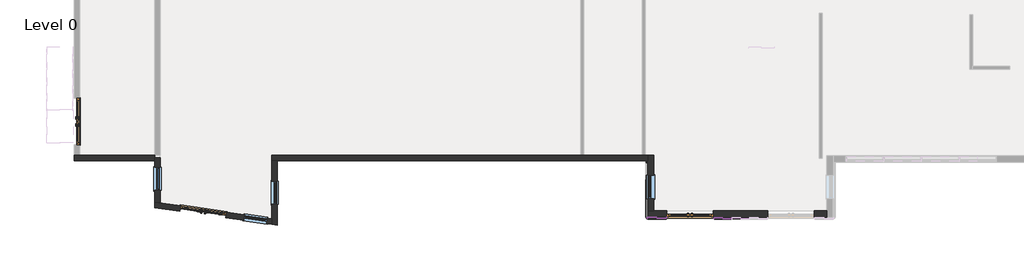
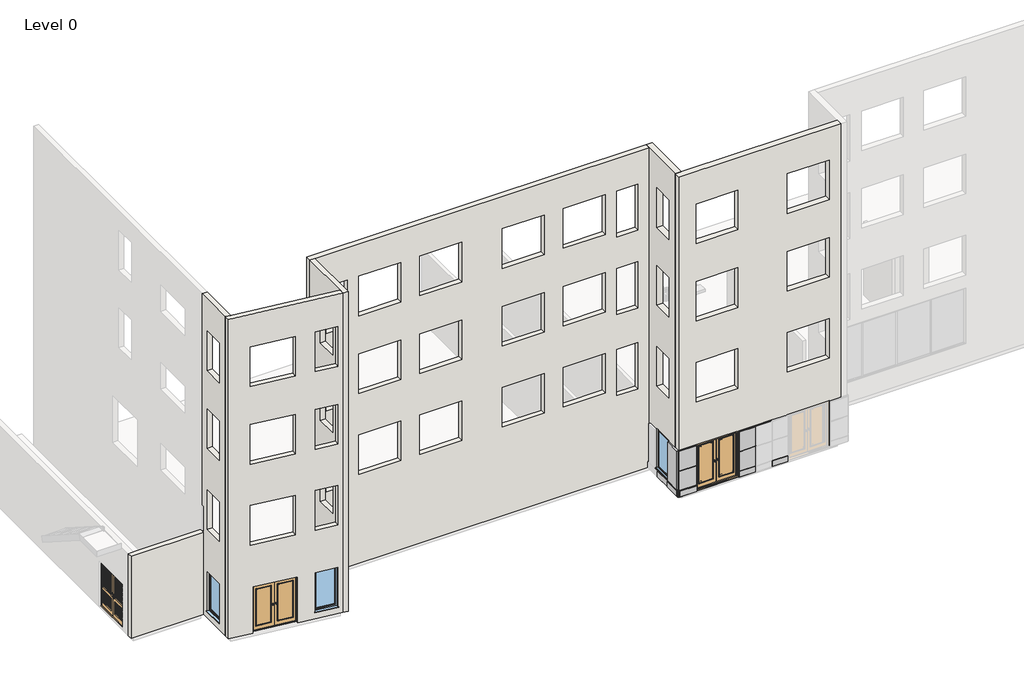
# One storey, part 1 of 10: 33 members, 10 plates, 7 walls, 4 windows, 3 doors.
"""IFC4 building model written with IfcOpenShell, lengths in millimetres."""

from ifc_helpers import new_model, si_unit, origin, place, context, project, spatial, faceted_brep, transform, mapped, element, save
from components import doors_extdbl_1_1810x2110mm_0b28ebda, doors_extdbl_3_1810x2110mm_e0e04a4e, doors_extdbl_louvre_w_transome_1810x2110mm_eca85ab6, rectangular_mullion_25x25mm_80950dc6, rectangular_mullion_25x25mm_dd205cdc, rectangular_mullion_25x25mm_8fab3f60, rectangular_mullion_25x25mm_b69b14d1, rectangular_mullion_25x25mm_7ee1a1d8, rectangular_mullion_25x25mm_003a9669, rectangular_mullion_25x25mm_920d8240, rectangular_mullion_25x25mm_9866c8c1, rectangular_mullion_25x25mm_d62621e3, rectangular_mullion_25x25mm_6d395d07, rectangular_mullion_25x25mm_ba48c8dc, rectangular_mullion_25x25mm_5747d3e9, rectangular_mullion_25x25mm_b4b9a9ee, rectangular_mullion_25x25mm_675738ca, rectangular_mullion_25x25mm_1daffa3c, rectangular_mullion_25x25mm_6c57a8fc, rectangular_mullion_25x25mm_2d4ba261, curtain_panels_solid_solid_panel_green_16f00973, curtain_panels_solid_solid_panel_green_5615a796, curtain_panels_solid_solid_panel_green_d2b71c95, curtain_panels_solid_solid_panel_green_3b4ed4f9, curtain_panels_solid_solid_panel_green_873f3444, curtain_panels_solid_solid_panel_green_c27fb083, windows_sgl_plain_910x1810mm_bd75558e, windows_sgl_plain_910x1810mm_de3ea6c8, windows_sgl_plain_910x1810mm_c05862ca

model = new_model("IFC4")

# Units and contexts
model_context = context("Model", 3, world=origin())
ifc_project = project(units=[si_unit("LENGTHUNIT", "METRE", prefix="MILLI")], contexts=[model_context])

# Site, building, storey
site = spatial("IfcSite", under=ifc_project)
building = spatial("IfcBuilding", under=site)
storey = spatial("IfcBuildingStorey", under=building, Name="Level 0", Elevation=0.0)

# Doors
placement = place(None, origin())
doors_extdbl_1_1810x2110mm_shape = doors_extdbl_1_1810x2110mm_0b28ebda(model_context)
element("IfcDoor", 1, ObjectType="Doors_ExtDbl_1 : 1810x2110mm", at=placement, inside=storey, context=model_context, shape_type="MappedRepresentation", body=[
    mapped(doors_extdbl_1_1810x2110mm_shape, transform((252.2271273, -5475.2464396, 0.0), x_axis=(-0.9902680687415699, 0.13917310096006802, 0.0), y_axis=(-0.13917310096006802, -0.9902680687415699, 0.0), z_axis=(0.0, 0.0, 1.0))),
])
doors_extdbl_3_1810x2110mm_shape = doors_extdbl_3_1810x2110mm_e0e04a4e(model_context)
element("IfcDoor", 2, ObjectType="Doors_ExtDbl_3 : 1810x2110mm", at=placement, inside=storey, context=model_context, shape_type="MappedRepresentation", body=[
    mapped(doors_extdbl_3_1810x2110mm_shape, transform((19253.2942367, -5567.5053409, 0.0), x_axis=(-1.0, 0.0, 0.0), y_axis=(0.0, -1.0, 0.0), z_axis=(0.0, 0.0, 1.0))),
])
doors_extdbl_louvre_w_transome_1810x2110mm_shape = doors_extdbl_louvre_w_transome_1810x2110mm_eca85ab6(model_context)
element("IfcDoor", 3, ObjectType="Doors_ExtDbl_Louvre_w-Transome : 1810x2110mm", at=placement, inside=storey, context=model_context, shape_type="MappedRepresentation", body=[
    mapped(doors_extdbl_louvre_w_transome_1810x2110mm_shape, transform((-4676.7057633, -1955.0053409, 0.0), x_axis=(0.0, -1.0, 0.0), y_axis=(1.0, 0.0, 0.0), z_axis=(0.0, 0.0, 1.0))),
])

# Members
rectangular_mullion_25x25mm_shape = rectangular_mullion_25x25mm_80950dc6(model_context)
element("IfcMember", 4, ObjectType="Rectangular Mullion : 25x25mm", at=placement, inside=storey, context=model_context, shape_type="MappedRepresentation", body=[
    mapped(rectangular_mullion_25x25mm_shape, transform((20882.4609034, -5717.5053409, 25.0), x_axis=(-1.0, 0.0, 0.0), y_axis=(0.0, 1.0, 0.0), z_axis=(0.0, 0.0, -1.0))),
])
rectangular_mullion_25x25mm_2_shape = rectangular_mullion_25x25mm_dd205cdc(model_context)
element("IfcMember", 5, ObjectType="Rectangular Mullion : 25x25mm", at=placement, inside=storey, context=model_context, shape_type="MappedRepresentation", body=[
    mapped(rectangular_mullion_25x25mm_2_shape, transform((20173.2942367, -5717.5053409, 25.0), x_axis=(-1.0, 0.0, 0.0), y_axis=(0.0, 1.0, 0.0), z_axis=(0.0, 0.0, -1.0))),
])
rectangular_mullion_25x25mm_3_shape = rectangular_mullion_25x25mm_8fab3f60(model_context)
element("IfcMember", 6, ObjectType="Rectangular Mullion : 25x25mm", at=placement, inside=storey, context=model_context, shape_type="MappedRepresentation", body=[
    mapped(rectangular_mullion_25x25mm_3_shape, transform((17573.2942367, -4210.005341, 25.0), x_axis=(0.0, -1.0, 0.0), y_axis=(-1.0, 0.0, 0.0), z_axis=(0.0, 0.0, -1.0))),
])
element("IfcMember", 7, ObjectType="Rectangular Mullion : 25x25mm", at=placement, inside=storey, context=model_context, shape_type="MappedRepresentation", body=[
    mapped(rectangular_mullion_25x25mm_3_shape, transform((17573.2942367, -4957.5053408, 25.0), x_axis=(0.0, -1.0, 0.0), y_axis=(-1.0, 0.0, 0.0), z_axis=(0.0, 0.0, -1.0))),
])
rectangular_mullion_25x25mm_4_shape = rectangular_mullion_25x25mm_b69b14d1(model_context)
element("IfcMember", 8, ObjectType="Rectangular Mullion : 25x25mm", at=placement, inside=storey, context=model_context, shape_type="MappedRepresentation", body=[
    mapped(rectangular_mullion_25x25mm_4_shape, transform((17573.2942367, -5717.5053409, 25.0), x_axis=(0.0, -1.0, 0.0), y_axis=(-1.0, 0.0, 0.0), z_axis=(0.0, 0.0, -1.0))),
])
rectangular_mullion_25x25mm_5_shape = rectangular_mullion_25x25mm_7ee1a1d8(model_context)
element("IfcMember", 9, ObjectType="Rectangular Mullion : 25x25mm", at=placement, inside=storey, context=model_context, shape_type="MappedRepresentation", body=[
    mapped(rectangular_mullion_25x25mm_5_shape, transform((17573.2942367, -5717.5053409, 300.0), x_axis=(0.0, 0.0, 1.0), y_axis=(-1.0, 0.0, 0.0), z_axis=(0.0, -1.0, 0.0))),
])
rectangular_mullion_25x25mm_6_shape = rectangular_mullion_25x25mm_003a9669(model_context)
element("IfcMember", 10, ObjectType="Rectangular Mullion : 25x25mm", at=placement, inside=storey, context=model_context, shape_type="MappedRepresentation", body=[
    mapped(rectangular_mullion_25x25mm_6_shape, transform((17573.2942367, -4210.005341, 300.0), x_axis=(0.0, 0.0, 1.0), y_axis=(-1.0, 0.0, 0.0), z_axis=(0.0, -1.0, 0.0))),
])
rectangular_mullion_25x25mm_7_shape = rectangular_mullion_25x25mm_920d8240(model_context)
element("IfcMember", 11, ObjectType="Rectangular Mullion : 25x25mm", at=placement, inside=storey, context=model_context, shape_type="MappedRepresentation", body=[
    mapped(rectangular_mullion_25x25mm_7_shape, transform((17573.2942367, -4957.5053408, 300.0), x_axis=(0.0, 0.0, 1.0), y_axis=(-1.0, 0.0, 0.0), z_axis=(0.0, -1.0, 0.0))),
])
element("IfcMember", 12, ObjectType="Rectangular Mullion : 25x25mm", at=placement, inside=storey, context=model_context, shape_type="MappedRepresentation", body=[
    mapped(rectangular_mullion_25x25mm_7_shape, transform((17573.2942367, -4210.005341, 0.0), x_axis=(0.0, 0.0, -1.0), y_axis=(-1.0, 0.0, 0.0), z_axis=(0.0, 1.0, 0.0))),
])
element("IfcMember", 13, ObjectType="Rectangular Mullion : 25x25mm", at=placement, inside=storey, context=model_context, shape_type="MappedRepresentation", body=[
    mapped(rectangular_mullion_25x25mm_5_shape, transform((17573.2942367, -4957.5053408, 0.0), x_axis=(0.0, 0.0, -1.0), y_axis=(-1.0, 0.0, 0.0), z_axis=(0.0, 1.0, 0.0))),
])
rectangular_mullion_25x25mm_8_shape = rectangular_mullion_25x25mm_9866c8c1(model_context)
element("IfcMember", 14, ObjectType="Rectangular Mullion : 25x25mm", at=placement, inside=storey, context=model_context, shape_type="MappedRepresentation", body=[
    mapped(rectangular_mullion_25x25mm_8_shape, transform((17573.2942367, -5717.5053409, 0.0), x_axis=(-1.0, 0.0, 0.0), y_axis=(0.0, 1.0, 0.0), z_axis=(0.0, 0.0, -1.0))),
])
element("IfcMember", 15, ObjectType="Rectangular Mullion : 25x25mm", at=placement, inside=storey, context=model_context, shape_type="MappedRepresentation", body=[
    mapped(rectangular_mullion_25x25mm_8_shape, transform((18348.2942367, -5717.5053409, 300.0), x_axis=(1.0, 0.0, 0.0), y_axis=(0.0, 1.0, 0.0), z_axis=(0.0, 0.0, 1.0))),
])
rectangular_mullion_25x25mm_9_shape = rectangular_mullion_25x25mm_d62621e3(model_context)
element("IfcMember", 16, ObjectType="Rectangular Mullion : 25x25mm", at=placement, inside=storey, context=model_context, shape_type="MappedRepresentation", body=[
    mapped(rectangular_mullion_25x25mm_9_shape, transform((17598.2942367, -5717.5053409, 300.0), x_axis=(0.0, 0.0, 1.0), y_axis=(0.0, 1.0, 0.0), z_axis=(-1.0, 0.0, 0.0))),
])
element("IfcMember", 17, ObjectType="Rectangular Mullion : 25x25mm", at=placement, inside=storey, context=model_context, shape_type="MappedRepresentation", body=[
    mapped(rectangular_mullion_25x25mm_9_shape, transform((18323.2942367, -5717.5053409, 0.0), x_axis=(0.0, 0.0, -1.0), y_axis=(0.0, 1.0, 0.0), z_axis=(1.0, 0.0, 0.0))),
])
rectangular_mullion_25x25mm_10_shape = rectangular_mullion_25x25mm_6d395d07(model_context)
element("IfcMember", 18, ObjectType="Rectangular Mullion : 25x25mm", at=placement, inside=storey, context=model_context, shape_type="MappedRepresentation", body=[
    mapped(rectangular_mullion_25x25mm_10_shape, transform((20173.2942367, -5717.5053409, 300.0), x_axis=(0.0, 0.0, 1.0), y_axis=(0.0, 1.0, 0.0), z_axis=(-1.0, 0.0, 0.0))),
])
element("IfcMember", 19, ObjectType="Rectangular Mullion : 25x25mm", at=placement, inside=storey, context=model_context, shape_type="MappedRepresentation", body=[
    mapped(rectangular_mullion_25x25mm_10_shape, transform((20173.2942367, -5717.5053409, 2110.0), x_axis=(0.0, 0.0, 1.0), y_axis=(0.0, 1.0, 0.0), z_axis=(-1.0, 0.0, 0.0))),
])
rectangular_mullion_25x25mm_11_shape = rectangular_mullion_25x25mm_ba48c8dc(model_context)
element("IfcMember", 20, ObjectType="Rectangular Mullion : 25x25mm", at=placement, inside=storey, context=model_context, shape_type="MappedRepresentation", body=[
    mapped(rectangular_mullion_25x25mm_11_shape, transform((20882.4609034, -5717.5053409, 300.0), x_axis=(0.0, 0.0, 1.0), y_axis=(0.0, 1.0, 0.0), z_axis=(-1.0, 0.0, 0.0))),
])
element("IfcMember", 21, ObjectType="Rectangular Mullion : 25x25mm", at=placement, inside=storey, context=model_context, shape_type="MappedRepresentation", body=[
    mapped(rectangular_mullion_25x25mm_11_shape, transform((20882.4609034, -5717.5053409, 2110.0), x_axis=(0.0, 0.0, 1.0), y_axis=(0.0, 1.0, 0.0), z_axis=(-1.0, 0.0, 0.0))),
])
element("IfcMember", 22, ObjectType="Rectangular Mullion : 25x25mm", at=placement, inside=storey, context=model_context, shape_type="MappedRepresentation", body=[
    mapped(rectangular_mullion_25x25mm_10_shape, transform((20882.4609034, -5717.5053409, 0.0), x_axis=(0.0, 0.0, -1.0), y_axis=(0.0, 1.0, 0.0), z_axis=(1.0, 0.0, 0.0))),
])
element("IfcMember", 23, ObjectType="Rectangular Mullion : 25x25mm", at=placement, inside=storey, context=model_context, shape_type="MappedRepresentation", body=[
    mapped(rectangular_mullion_25x25mm_10_shape, transform((20882.4609034, -5717.5053409, 275.0), x_axis=(0.0, 0.0, -1.0), y_axis=(0.0, 1.0, 0.0), z_axis=(1.0, 0.0, 0.0))),
])
rectangular_mullion_25x25mm_12_shape = rectangular_mullion_25x25mm_5747d3e9(model_context)
element("IfcMember", 24, ObjectType="Rectangular Mullion : 25x25mm", at=placement, inside=storey, context=model_context, shape_type="MappedRepresentation", body=[
    mapped(rectangular_mullion_25x25mm_12_shape, transform((20882.4609034, -5717.5053409, 300.0), x_axis=(-1.0, 0.0, 0.0), y_axis=(0.0, 1.0, 0.0), z_axis=(0.0, 0.0, -1.0))),
])
element("IfcMember", 25, ObjectType="Rectangular Mullion : 25x25mm", at=placement, inside=storey, context=model_context, shape_type="MappedRepresentation", body=[
    mapped(rectangular_mullion_25x25mm_12_shape, transform((20882.4609034, -5717.5053409, 1192.5), x_axis=(-1.0, 0.0, 0.0), y_axis=(0.0, 1.0, 0.0), z_axis=(0.0, 0.0, -1.0))),
])
rectangular_mullion_25x25mm_13_shape = rectangular_mullion_25x25mm_b4b9a9ee(model_context)
element("IfcMember", 26, ObjectType="Rectangular Mullion : 25x25mm", at=placement, inside=storey, context=model_context, shape_type="MappedRepresentation", body=[
    mapped(rectangular_mullion_25x25mm_13_shape, transform((20894.9609034, -5717.5053409, 1192.5), x_axis=(0.0, 0.0, 1.0), y_axis=(0.0, 1.0, 0.0), z_axis=(-1.0, 0.0, 0.0))),
])
element("IfcMember", 27, ObjectType="Rectangular Mullion : 25x25mm", at=placement, inside=storey, context=model_context, shape_type="MappedRepresentation", body=[
    mapped(rectangular_mullion_25x25mm_13_shape, transform((20198.2942367, -5717.5053409, 1192.5), x_axis=(0.0, 0.0, 1.0), y_axis=(0.0, 1.0, 0.0), z_axis=(-1.0, 0.0, 0.0))),
])
rectangular_mullion_25x25mm_14_shape = rectangular_mullion_25x25mm_675738ca(model_context)
element("IfcMember", 28, ObjectType="Rectangular Mullion : 25x25mm", at=placement, inside=storey, context=model_context, shape_type="MappedRepresentation", body=[
    mapped(rectangular_mullion_25x25mm_14_shape, transform((20173.2942367, -5717.5053409, 300.0), x_axis=(-1.0, 0.0, 0.0), y_axis=(0.0, 1.0, 0.0), z_axis=(0.0, 0.0, -1.0))),
])
element("IfcMember", 29, ObjectType="Rectangular Mullion : 25x25mm", at=placement, inside=storey, context=model_context, shape_type="MappedRepresentation", body=[
    mapped(rectangular_mullion_25x25mm_14_shape, transform((20173.2942367, -5717.5053409, 1192.5), x_axis=(-1.0, 0.0, 0.0), y_axis=(0.0, 1.0, 0.0), z_axis=(0.0, 0.0, -1.0))),
])
rectangular_mullion_25x25mm_15_shape = rectangular_mullion_25x25mm_1daffa3c(model_context)
element("IfcMember", 30, ObjectType="Rectangular Mullion : 25x25mm", at=placement, inside=storey, context=model_context, shape_type="MappedRepresentation", body=[
    mapped(rectangular_mullion_25x25mm_15_shape, transform((17573.2942367, -5717.5053409, 2110.0), x_axis=(0.0, 0.0, 1.0), y_axis=(0.0, 1.0, 0.0), z_axis=(-1.0, 0.0, 0.0))),
])
element("IfcMember", 31, ObjectType="Rectangular Mullion : 25x25mm", at=placement, inside=storey, context=model_context, shape_type="MappedRepresentation", body=[
    mapped(rectangular_mullion_25x25mm_15_shape, transform((18348.2942367, -5717.5053409, 275.0), x_axis=(0.0, 0.0, -1.0), y_axis=(0.0, 1.0, 0.0), z_axis=(1.0, 0.0, 0.0))),
])
rectangular_mullion_25x25mm_16_shape = rectangular_mullion_25x25mm_6c57a8fc(model_context)
element("IfcMember", 32, ObjectType="Rectangular Mullion : 25x25mm", at=placement, inside=storey, context=model_context, shape_type="MappedRepresentation", body=[
    mapped(rectangular_mullion_25x25mm_16_shape, transform((17598.2942367, -5717.5053409, 1192.5), x_axis=(0.0, 0.0, 1.0), y_axis=(0.0, 1.0, 0.0), z_axis=(-1.0, 0.0, 0.0))),
])
rectangular_mullion_25x25mm_17_shape = rectangular_mullion_25x25mm_2d4ba261(model_context)
element("IfcMember", 33, ObjectType="Rectangular Mullion : 25x25mm", at=placement, inside=storey, context=model_context, shape_type="MappedRepresentation", body=[
    mapped(rectangular_mullion_25x25mm_17_shape, transform((17573.2942367, -5717.5053409, 300.0), x_axis=(-1.0, 0.0, 0.0), y_axis=(0.0, 1.0, 0.0), z_axis=(0.0, 0.0, -1.0))),
])
element("IfcMember", 34, ObjectType="Rectangular Mullion : 25x25mm", at=placement, inside=storey, context=model_context, shape_type="MappedRepresentation", body=[
    mapped(rectangular_mullion_25x25mm_17_shape, transform((18348.2942367, -5717.5053409, 2085.0), x_axis=(1.0, 0.0, 0.0), y_axis=(0.0, 1.0, 0.0), z_axis=(0.0, 0.0, 1.0))),
])
element("IfcMember", 35, ObjectType="Rectangular Mullion : 25x25mm", at=placement, inside=storey, context=model_context, shape_type="MappedRepresentation", body=[
    mapped(rectangular_mullion_25x25mm_17_shape, transform((17573.2942367, -5717.5053409, 1192.5), x_axis=(-1.0, 0.0, 0.0), y_axis=(0.0, 1.0, 0.0), z_axis=(0.0, 0.0, -1.0))),
])
element("IfcMember", 36, ObjectType="Rectangular Mullion : 25x25mm", at=placement, inside=storey, context=model_context, shape_type="MappedRepresentation", body=[
    mapped(rectangular_mullion_25x25mm_17_shape, transform((18348.2942367, -5717.5053409, 1192.5), x_axis=(1.0, 0.0, 0.0), y_axis=(0.0, 1.0, 0.0), z_axis=(0.0, 0.0, 1.0))),
])

# Plates
curtain_panels_solid_solid_panel_green_shape = curtain_panels_solid_solid_panel_green_16f00973(model_context)
element("IfcPlate", 37, ObjectType="Curtain_Panels_Solid : Solid_Panel_Green", at=placement, inside=storey, context=model_context, shape_type="MappedRepresentation", body=[
    mapped(curtain_panels_solid_solid_panel_green_shape, transform((17573.2942367, -5337.5053409, 325.0), x_axis=(0.0, -1.0, 0.0), y_axis=(1.0, 0.0, 0.0), z_axis=(0.0, 0.0, 1.0))),
])
curtain_panels_solid_solid_panel_green_2_shape = curtain_panels_solid_solid_panel_green_5615a796(model_context)
element("IfcPlate", 38, ObjectType="Curtain_Panels_Solid : Solid_Panel_Green", at=placement, inside=storey, context=model_context, shape_type="MappedRepresentation", body=[
    mapped(curtain_panels_solid_solid_panel_green_2_shape, transform((17573.2942367, -4583.7553409, 25.0), x_axis=(0.0, -1.0, 0.0), y_axis=(1.0, 0.0, 0.0), z_axis=(0.0, 0.0, 1.0))),
])
element("IfcPlate", 39, ObjectType="Curtain_Panels_Solid : Solid_Panel_Green", at=placement, inside=storey, context=model_context, shape_type="MappedRepresentation", body=[
    mapped(curtain_panels_solid_solid_panel_green_2_shape, transform((17573.2942367, -5331.2553408, 25.0), x_axis=(0.0, -1.0, 0.0), y_axis=(1.0, 0.0, 0.0), z_axis=(0.0, 0.0, 1.0))),
])
curtain_panels_solid_solid_panel_green_3_shape = curtain_panels_solid_solid_panel_green_d2b71c95(model_context)
element("IfcPlate", 40, ObjectType="Curtain_Panels_Solid : Solid_Panel_Green", at=placement, inside=storey, context=model_context, shape_type="MappedRepresentation", body=[
    mapped(curtain_panels_solid_solid_panel_green_3_shape, transform((17960.7942367, -5717.5053409, 25.0), x_axis=(-1.0, 0.0, 0.0), y_axis=(0.0, -1.0, 0.0), z_axis=(0.0, 0.0, 1.0))),
])
curtain_panels_solid_solid_panel_green_4_shape = curtain_panels_solid_solid_panel_green_3b4ed4f9(model_context)
element("IfcPlate", 41, ObjectType="Curtain_Panels_Solid : Solid_Panel_Green", at=placement, inside=storey, context=model_context, shape_type="MappedRepresentation", body=[
    mapped(curtain_panels_solid_solid_panel_green_4_shape, transform((21927.4609033, -5717.5053409, 25.0), x_axis=(-1.0, 0.0, 0.0), y_axis=(0.0, -1.0, 0.0), z_axis=(0.0, 0.0, 1.0))),
])
element("IfcPlate", 42, ObjectType="Curtain_Panels_Solid : Solid_Panel_Green", at=placement, inside=storey, context=model_context, shape_type="MappedRepresentation", body=[
    mapped(curtain_panels_solid_solid_panel_green_4_shape, transform((20534.1275701, -5717.5053409, 25.0), x_axis=(-1.0, 0.0, 0.0), y_axis=(0.0, -1.0, 0.0), z_axis=(0.0, 0.0, 1.0))),
])
curtain_panels_solid_solid_panel_green_5_shape = curtain_panels_solid_solid_panel_green_873f3444(model_context)
element("IfcPlate", 43, ObjectType="Curtain_Panels_Solid : Solid_Panel_Green", at=placement, inside=storey, context=model_context, shape_type="MappedRepresentation", body=[
    mapped(curtain_panels_solid_solid_panel_green_5_shape, transform((20534.1275701, -5717.5053409, 300.0), x_axis=(-1.0, 0.0, 0.0), y_axis=(0.0, -1.0, 0.0), z_axis=(0.0, 0.0, 1.0))),
])
element("IfcPlate", 44, ObjectType="Curtain_Panels_Solid : Solid_Panel_Green", at=placement, inside=storey, context=model_context, shape_type="MappedRepresentation", body=[
    mapped(curtain_panels_solid_solid_panel_green_5_shape, transform((20534.1275701, -5717.5053409, 1205.0), x_axis=(-1.0, 0.0, 0.0), y_axis=(0.0, -1.0, 0.0), z_axis=(0.0, 0.0, 1.0))),
])
curtain_panels_solid_solid_panel_green_6_shape = curtain_panels_solid_solid_panel_green_c27fb083(model_context)
element("IfcPlate", 45, ObjectType="Curtain_Panels_Solid : Solid_Panel_Green", at=placement, inside=storey, context=model_context, shape_type="MappedRepresentation", body=[
    mapped(curtain_panels_solid_solid_panel_green_6_shape, transform((17960.7942367, -5717.5053409, 300.0), x_axis=(-1.0, 0.0, 0.0), y_axis=(0.0, -1.0, 0.0), z_axis=(0.0, 0.0, 1.0))),
])
element("IfcPlate", 46, ObjectType="Curtain_Panels_Solid : Solid_Panel_Green", at=placement, inside=storey, context=model_context, shape_type="MappedRepresentation", body=[
    mapped(curtain_panels_solid_solid_panel_green_6_shape, transform((17960.7942367, -5717.5053409, 1205.0), x_axis=(-1.0, 0.0, 0.0), y_axis=(0.0, -1.0, 0.0), z_axis=(0.0, 0.0, 1.0))),
])

# Walls
element("IfcWall", 47, ObjectType="Wall-Ext_215Bwk", at=placement, inside=storey, context=model_context, shape_type="Brep", body=[
    faceted_brep([(-1644.2223222, -3260.0053409, 0.0), (-4569.2057633, -3260.0053409, 0.0), (-4784.2057633, -3260.0053409, 0.0), (-4784.2057633, -3260.0053409, 3750.0), (-4569.2057633, -3260.0053409, 3750.0), (-1644.2223222, -3260.0053409, 3750.0), (-1644.2223222, -3475.0053409, 0.0), (-1644.2223222, -3475.0053409, 3750.0), (-4784.2057633, -3475.0053409, 3750.0), (-4784.2057633, -3475.0053409, 0.0)], [[[0, 1, 2, 3, 4, 5]], [[6, 7, 8, 9]], [[2, 1, 0, 6, 9]], [[5, 4, 3, 8, 7]], [[0, 5, 7, 6]], [[3, 2, 9, 8]]]),
])
element("IfcWall", 48, ObjectType="Wall-Ext_215Concrete", at=placement, inside=storey, context=model_context, shape_type="Brep", body=[
    faceted_brep([(17598.2942367, -3259.5053409, 0.0), (2935.2942367, -3259.5053409, 0.0), (2935.2942367, -3259.5053409, 3450.0), (2935.2942367, -3259.5053409, 3750.0), (2935.2942367, -3259.5053409, 14600.0), (17598.2942367, -3259.5053409, 14600.0), (17598.2942367, -3259.5053409, 3750.0), (17598.2942367, -3259.5053409, 3450.0), (5060.7942367, -3259.5053409, 5860.0), (5060.7942367, -3259.5053409, 4050.0), (6870.7942367, -3259.5053409, 4050.0), (6870.7942367, -3259.5053409, 5860.0), (16205.7942367, -3259.5053409, 5860.0), (16205.7942367, -3259.5053409, 3750.0), (17115.7942367, -3259.5053409, 3750.0), (17115.7942367, -3259.5053409, 5860.0), (4560.7942367, -3259.5053409, 3750.0), (4560.7942367, -3259.5053409, 5860.0), (3650.7942367, -3259.5053409, 5860.0), (3650.7942367, -3259.5053409, 3750.0), (7698.2942367, -3259.5053409, 5860.0), (7698.2942367, -3259.5053409, 4050.0), (9508.2942367, -3259.5053409, 4050.0), (9508.2942367, -3259.5053409, 5860.0), (13068.2942367, -3259.5053409, 4050.0), (13068.2942367, -3259.5053409, 5860.0), (11258.2942367, -3259.5053409, 5860.0), (11258.2942367, -3259.5053409, 4050.0), (15705.7942367, -3259.5053409, 4050.0), (15705.7942367, -3259.5053409, 5860.0), (13895.7942367, -3259.5053409, 5860.0), (13895.7942367, -3259.5053409, 4050.0), (13068.2942367, -3259.5053409, 7750.0), (13068.2942367, -3259.5053409, 9560.0), (11258.2942367, -3259.5053409, 9560.0), (11258.2942367, -3259.5053409, 7750.0), (15705.7942367, -3259.5053409, 7750.0), (15705.7942367, -3259.5053409, 9560.0), (13895.7942367, -3259.5053409, 9560.0), (13895.7942367, -3259.5053409, 7750.0), (7698.2942367, -3259.5053409, 9560.0), (7698.2942367, -3259.5053409, 7750.0), (9508.2942367, -3259.5053409, 7750.0), (9508.2942367, -3259.5053409, 9560.0), (4560.7942367, -3259.5053409, 7450.0), (4560.7942367, -3259.5053409, 9560.0), (3650.7942367, -3259.5053409, 9560.0), (3650.7942367, -3259.5053409, 7450.0), (16205.7942367, -3259.5053409, 9560.0), (16205.7942367, -3259.5053409, 7450.0), (17115.7942367, -3259.5053409, 7450.0), (17115.7942367, -3259.5053409, 9560.0), (5060.7942367, -3259.5053409, 9560.0), (5060.7942367, -3259.5053409, 7750.0), (6870.7942367, -3259.5053409, 7750.0), (6870.7942367, -3259.5053409, 9560.0), (13068.2942367, -3259.5053409, 11300.0), (13068.2942367, -3259.5053409, 13110.0), (11258.2942367, -3259.5053409, 13110.0), (11258.2942367, -3259.5053409, 11300.0), (15705.7942367, -3259.5053409, 11300.0), (15705.7942367, -3259.5053409, 13110.0), (13895.7942367, -3259.5053409, 13110.0), (13895.7942367, -3259.5053409, 11300.0), (7698.2942367, -3259.5053409, 13110.0), (7698.2942367, -3259.5053409, 11300.0), (9508.2942367, -3259.5053409, 11300.0), (9508.2942367, -3259.5053409, 13110.0), (4560.7942367, -3259.5053409, 11000.0), (4560.7942367, -3259.5053409, 13110.0), (3650.7942367, -3259.5053409, 13110.0), (3650.7942367, -3259.5053409, 11000.0), (16205.7942367, -3259.5053409, 13110.0), (16205.7942367, -3259.5053409, 11000.0), (17115.7942367, -3259.5053409, 11000.0), (17115.7942367, -3259.5053409, 13110.0), (5060.7942367, -3259.5053409, 13110.0), (5060.7942367, -3259.5053409, 11300.0), (6870.7942367, -3259.5053409, 11300.0), (6870.7942367, -3259.5053409, 13110.0), (2935.2942367, -3475.5053409, 0.0), (3151.2942367, -3475.5053409, 0.0), (17598.2942367, -3475.5053409, 0.0), (17598.2942367, -3475.5053409, 14600.0), (3151.2942367, -3475.5053409, 14600.0), (2935.2942367, -3475.5053409, 14600.0), (2935.2942367, -3475.5053409, 3750.0), (2935.2942367, -3475.5053409, 3450.0), (5060.7942367, -3475.5053409, 4050.0), (5060.7942367, -3475.5053409, 5860.0), (6870.7942367, -3475.5053409, 5860.0), (6870.7942367, -3475.5053409, 4050.0), (16205.7942367, -3475.5053409, 3750.0), (16205.7942367, -3475.5053409, 5860.0), (17115.7942367, -3475.5053409, 5860.0), (17115.7942367, -3475.5053409, 3750.0), (4560.7942367, -3475.5053409, 5860.0), (4560.7942367, -3475.5053409, 3750.0), (3650.7942367, -3475.5053409, 3750.0), (3650.7942367, -3475.5053409, 5860.0), (7698.2942367, -3475.5053409, 4050.0), (7698.2942367, -3475.5053409, 5860.0), (9508.2942367, -3475.5053409, 5860.0), (9508.2942367, -3475.5053409, 4050.0), (13068.2942367, -3475.5053409, 5860.0), (13068.2942367, -3475.5053409, 4050.0), (11258.2942367, -3475.5053409, 4050.0), (11258.2942367, -3475.5053409, 5860.0), (15705.7942367, -3475.5053409, 5860.0), (15705.7942367, -3475.5053409, 4050.0), (13895.7942367, -3475.5053409, 4050.0), (13895.7942367, -3475.5053409, 5860.0), (13068.2942367, -3475.5053409, 9560.0), (13068.2942367, -3475.5053409, 7750.0), (11258.2942367, -3475.5053409, 7750.0), (11258.2942367, -3475.5053409, 9560.0), (15705.7942367, -3475.5053409, 9560.0), (15705.7942367, -3475.5053409, 7750.0), (13895.7942367, -3475.5053409, 7750.0), (13895.7942367, -3475.5053409, 9560.0), (7698.2942367, -3475.5053409, 7750.0), (7698.2942367, -3475.5053409, 9560.0), (9508.2942367, -3475.5053409, 9560.0), (9508.2942367, -3475.5053409, 7750.0), (4560.7942367, -3475.5053409, 9560.0), (4560.7942367, -3475.5053409, 7450.0), (3650.7942367, -3475.5053409, 7450.0), (3650.7942367, -3475.5053409, 9560.0), (16205.7942367, -3475.5053409, 7450.0), (16205.7942367, -3475.5053409, 9560.0), (17115.7942367, -3475.5053409, 9560.0), (17115.7942367, -3475.5053409, 7450.0), (5060.7942367, -3475.5053409, 7750.0), (5060.7942367, -3475.5053409, 9560.0), (6870.7942367, -3475.5053409, 9560.0), (6870.7942367, -3475.5053409, 7750.0), (13068.2942367, -3475.5053409, 13110.0), (13068.2942367, -3475.5053409, 11300.0), (11258.2942367, -3475.5053409, 11300.0), (11258.2942367, -3475.5053409, 13110.0), (15705.7942367, -3475.5053409, 13110.0), (15705.7942367, -3475.5053409, 11300.0), (13895.7942367, -3475.5053409, 11300.0), (13895.7942367, -3475.5053409, 13110.0), (7698.2942367, -3475.5053409, 11300.0), (7698.2942367, -3475.5053409, 13110.0), (9508.2942367, -3475.5053409, 13110.0), (9508.2942367, -3475.5053409, 11300.0), (4560.7942367, -3475.5053409, 13110.0), (4560.7942367, -3475.5053409, 11000.0), (3650.7942367, -3475.5053409, 11000.0), (3650.7942367, -3475.5053409, 13110.0), (16205.7942367, -3475.5053409, 11000.0), (16205.7942367, -3475.5053409, 13110.0), (17115.7942367, -3475.5053409, 13110.0), (17115.7942367, -3475.5053409, 11000.0), (5060.7942367, -3475.5053409, 11300.0), (5060.7942367, -3475.5053409, 13110.0), (6870.7942367, -3475.5053409, 13110.0), (6870.7942367, -3475.5053409, 11300.0)], [[[0, 1, 2, 3, 4, 5, 6, 7], [8, 9, 10, 11], [12, 13, 14, 15], [16, 17, 18, 19], [20, 21, 22, 23], [24, 25, 26, 27], [28, 29, 30, 31], [32, 33, 34, 35], [36, 37, 38, 39], [40, 41, 42, 43], [44, 45, 46, 47], [48, 49, 50, 51], [52, 53, 54, 55], [56, 57, 58, 59], [60, 61, 62, 63], [64, 65, 66, 67], [68, 69, 70, 71], [72, 73, 74, 75], [76, 77, 78, 79]], [[80, 81, 82, 83, 84, 85, 86, 87], [88, 89, 90, 91], [92, 93, 94, 95], [96, 97, 98, 99], [100, 101, 102, 103], [104, 105, 106, 107], [108, 109, 110, 111], [112, 113, 114, 115], [116, 117, 118, 119], [120, 121, 122, 123], [124, 125, 126, 127], [128, 129, 130, 131], [132, 133, 134, 135], [136, 137, 138, 139], [140, 141, 142, 143], [144, 145, 146, 147], [148, 149, 150, 151], [152, 153, 154, 155], [156, 157, 158, 159]], [[1, 0, 82, 81, 80]], [[1, 80, 87, 86, 85, 4, 3, 2]], [[5, 4, 85, 84, 83]], [[9, 8, 89, 88]], [[10, 9, 88, 91]], [[11, 10, 91, 90]], [[8, 11, 90, 89]], [[13, 12, 93, 92]], [[14, 13, 92, 95]], [[15, 14, 95, 94]], [[12, 15, 94, 93]], [[97, 96, 17, 16]], [[98, 97, 16, 19]], [[99, 98, 19, 18]], [[96, 99, 18, 17]], [[21, 20, 101, 100]], [[22, 21, 100, 103]], [[23, 22, 103, 102]], [[20, 23, 102, 101]], [[105, 104, 25, 24]], [[106, 105, 24, 27]], [[107, 106, 27, 26]], [[104, 107, 26, 25]], [[109, 108, 29, 28]], [[110, 109, 28, 31]], [[111, 110, 31, 30]], [[108, 111, 30, 29]], [[113, 112, 33, 32]], [[114, 113, 32, 35]], [[115, 114, 35, 34]], [[112, 115, 34, 33]], [[117, 116, 37, 36]], [[118, 117, 36, 39]], [[119, 118, 39, 38]], [[116, 119, 38, 37]], [[41, 40, 121, 120]], [[42, 41, 120, 123]], [[43, 42, 123, 122]], [[40, 43, 122, 121]], [[125, 124, 45, 44]], [[126, 125, 44, 47]], [[127, 126, 47, 46]], [[124, 127, 46, 45]], [[49, 48, 129, 128]], [[50, 49, 128, 131]], [[51, 50, 131, 130]], [[48, 51, 130, 129]], [[53, 52, 133, 132]], [[54, 53, 132, 135]], [[55, 54, 135, 134]], [[52, 55, 134, 133]], [[137, 136, 57, 56]], [[138, 137, 56, 59]], [[139, 138, 59, 58]], [[136, 139, 58, 57]], [[141, 140, 61, 60]], [[142, 141, 60, 63]], [[143, 142, 63, 62]], [[140, 143, 62, 61]], [[65, 64, 145, 144]], [[66, 65, 144, 147]], [[67, 66, 147, 146]], [[64, 67, 146, 145]], [[149, 148, 69, 68]], [[150, 149, 68, 71]], [[151, 150, 71, 70]], [[148, 151, 70, 69]], [[73, 72, 153, 152]], [[74, 73, 152, 155]], [[75, 74, 155, 154]], [[72, 75, 154, 153]], [[77, 76, 157, 156]], [[78, 77, 156, 159]], [[79, 78, 159, 158]], [[76, 79, 158, 157]], [[5, 83, 82, 0, 7, 6]]]),
])
element("IfcWall", 49, ObjectType="Wall-Ext_215Concrete", at=placement, inside=storey, context=model_context, shape_type="Brep", body=[
    faceted_brep([(2935.2942367, -3475.5053409, 0.0), (2935.2942367, -5743.2655529, 0.0), (2935.2942367, -5961.3883085, 0.0), (2935.2942367, -5961.3883085, 14600.0), (2935.2942367, -5743.2655529, 14600.0), (2935.2942367, -3475.5053409, 14600.0), (2935.2942367, -4278.0053409, 5860.0), (2935.2942367, -5188.0053409, 5860.0), (2935.2942367, -5188.0053409, 4050.0), (2935.2942367, -4278.0053409, 4050.0), (2935.2942367, -4278.0053409, 2110.0), (2935.2942367, -5188.0053409, 2110.0), (2935.2942367, -5188.0053409, 300.0), (2935.2942367, -4278.0053409, 300.0), (2935.2942367, -4278.0053409, 9560.0), (2935.2942367, -5188.0053409, 9560.0), (2935.2942367, -5188.0053409, 7750.0), (2935.2942367, -4278.0053409, 7750.0), (2935.2942367, -4278.0053409, 13110.0), (2935.2942367, -5188.0053409, 13110.0), (2935.2942367, -5188.0053409, 11300.0), (2935.2942367, -4278.0053409, 11300.0), (3151.2942367, -3475.5053409, 0.0), (3151.2942367, -3475.5053409, 14600.0), (3151.2942367, -5991.7451288, 14600.0), (3151.2942367, -5991.7451288, 0.0), (3151.2942367, -4278.0053409, 5860.0), (3151.2942367, -4278.0053409, 4050.0), (3151.2942367, -5188.0053409, 4050.0), (3151.2942367, -5188.0053409, 5860.0), (3151.2942367, -4278.0053409, 2110.0), (3151.2942367, -4278.0053409, 300.0), (3151.2942367, -5188.0053409, 300.0), (3151.2942367, -5188.0053409, 2110.0), (3151.2942367, -4278.0053409, 9560.0), (3151.2942367, -4278.0053409, 7750.0), (3151.2942367, -5188.0053409, 7750.0), (3151.2942367, -5188.0053409, 9560.0), (3151.2942367, -4278.0053409, 13110.0), (3151.2942367, -4278.0053409, 11300.0), (3151.2942367, -5188.0053409, 11300.0), (3151.2942367, -5188.0053409, 13110.0)], [[[0, 1, 2, 3, 4, 5], [6, 7, 8, 9], [10, 11, 12, 13], [14, 15, 16, 17], [18, 19, 20, 21]], [[22, 23, 24, 25], [26, 27, 28, 29], [30, 31, 32, 33], [34, 35, 36, 37], [38, 39, 40, 41]], [[2, 1, 0, 22, 25]], [[5, 4, 3, 24, 23]], [[3, 2, 25, 24]], [[0, 5, 23, 22]], [[27, 26, 6, 9]], [[28, 27, 9, 8]], [[29, 28, 8, 7]], [[26, 29, 7, 6]], [[31, 30, 10, 13]], [[32, 31, 13, 12]], [[33, 32, 12, 11]], [[30, 33, 11, 10]], [[35, 34, 14, 17]], [[36, 35, 17, 16]], [[37, 36, 16, 15]], [[34, 37, 15, 14]], [[39, 38, 18, 21]], [[40, 39, 21, 20]], [[41, 40, 20, 19]], [[38, 41, 19, 18]]]),
])
element("IfcWall", 50, ObjectType="Wall-Ext_215Concrete", at=placement, inside=storey, context=model_context, shape_type="Brep", body=[
    faceted_brep([(-1644.7223222, -5099.5862027, 14600.0), (-1428.7223222, -5129.943023, 14600.0), (2935.2942367, -5743.2655529, 14600.0), (2935.2942367, -5743.2655529, 0.0), (1163.4504245, -5494.2491445, 0.0), (1163.4504245, -5494.2491445, 2110.0), (-628.93478, -5242.3458318, 2110.0), (-628.93478, -5242.3458318, 0.0), (-1428.7223222, -5129.943023, 0.0), (-1644.7223222, -5099.5862027, 0.0), (1856.6380726, -5591.6703152, 2110.0), (1856.6380726, -5591.6703152, 300.0), (2757.7820151, -5718.3178371, 300.0), (2757.7820151, -5718.3178371, 2110.0), (1856.6380726, -5591.6703152, 5860.0), (1856.6380726, -5591.6703152, 4050.0), (2757.7820151, -5718.3178371, 4050.0), (2757.7820151, -5718.3178371, 5860.0), (1856.6380726, -5591.6703152, 9560.0), (1856.6380726, -5591.6703152, 7750.0), (2757.7820151, -5718.3178371, 7750.0), (2757.7820151, -5718.3178371, 9560.0), (1856.6380726, -5591.6703152, 13110.0), (1856.6380726, -5591.6703152, 11300.0), (2757.7820151, -5718.3178371, 11300.0), (2757.7820151, -5718.3178371, 13110.0), (-734.8934633, -5227.45431, 5860.0), (-734.8934633, -5227.45431, 4050.0), (1057.4917411, -5479.3576227, 4050.0), (1057.4917411, -5479.3576227, 5860.0), (-734.8934633, -5227.45431, 9560.0), (-734.8934633, -5227.45431, 7750.0), (1057.4917411, -5479.3576227, 7750.0), (1057.4917411, -5479.3576227, 9560.0), (-734.8934633, -5227.45431, 13110.0), (-734.8934633, -5227.45431, 11300.0), (1057.4917411, -5479.3576227, 11300.0), (1057.4917411, -5479.3576227, 13110.0), (2935.2942367, -5961.3883085, 14600.0), (-1644.7223222, -5317.7089584, 14600.0), (-1644.7223222, -5317.7089584, 0.0), (-658.9961698, -5456.2437347, 0.0), (-658.9961698, -5456.2437347, 2110.0), (1133.3890346, -5708.1470474, 2110.0), (1133.3890346, -5708.1470474, 0.0), (2935.2942367, -5961.3883085, 0.0), (1826.5766828, -5805.5682181, 2110.0), (2727.7206253, -5932.2157399, 2110.0), (2727.7206253, -5932.2157399, 300.0), (1826.5766828, -5805.5682181, 300.0), (1826.5766828, -5805.5682181, 5860.0), (2727.7206253, -5932.2157399, 5860.0), (2727.7206253, -5932.2157399, 4050.0), (1826.5766828, -5805.5682181, 4050.0), (1826.5766828, -5805.5682181, 9560.0), (2727.7206253, -5932.2157399, 9560.0), (2727.7206253, -5932.2157399, 7750.0), (1826.5766828, -5805.5682181, 7750.0), (1826.5766828, -5805.5682181, 13110.0), (2727.7206253, -5932.2157399, 13110.0), (2727.7206253, -5932.2157399, 11300.0), (1826.5766828, -5805.5682181, 11300.0), (-764.9548531, -5441.3522129, 5860.0), (1027.4303513, -5693.2555256, 5860.0), (1027.4303513, -5693.2555256, 4050.0), (-764.9548531, -5441.3522129, 4050.0), (-764.9548531, -5441.3522129, 9560.0), (1027.4303513, -5693.2555256, 9560.0), (1027.4303513, -5693.2555256, 7750.0), (-764.9548531, -5441.3522129, 7750.0), (-764.9548531, -5441.3522129, 13110.0), (1027.4303513, -5693.2555256, 13110.0), (1027.4303513, -5693.2555256, 11300.0), (-764.9548531, -5441.3522129, 11300.0)], [[[0, 1, 2, 3, 4, 5, 6, 7, 8, 9], [10, 11, 12, 13], [14, 15, 16, 17], [18, 19, 20, 21], [22, 23, 24, 25], [26, 27, 28, 29], [30, 31, 32, 33], [34, 35, 36, 37]], [[38, 39, 40, 41, 42, 43, 44, 45], [46, 47, 48, 49], [50, 51, 52, 53], [54, 55, 56, 57], [58, 59, 60, 61], [62, 63, 64, 65], [66, 67, 68, 69], [70, 71, 72, 73]], [[3, 45, 44, 4]], [[40, 9, 8, 7, 41]], [[2, 1, 0, 39, 38]], [[3, 2, 38, 45]], [[0, 9, 40, 39]], [[11, 10, 46, 49]], [[12, 11, 49, 48]], [[13, 12, 48, 47]], [[10, 13, 47, 46]], [[43, 5, 4, 44]], [[5, 43, 42, 6]], [[6, 42, 41, 7]], [[15, 14, 50, 53]], [[16, 15, 53, 52]], [[17, 16, 52, 51]], [[14, 17, 51, 50]], [[19, 18, 54, 57]], [[20, 19, 57, 56]], [[21, 20, 56, 55]], [[18, 21, 55, 54]], [[23, 22, 58, 61]], [[24, 23, 61, 60]], [[25, 24, 60, 59]], [[22, 25, 59, 58]], [[27, 26, 62, 65]], [[28, 27, 65, 64]], [[29, 28, 64, 63]], [[26, 29, 63, 62]], [[31, 30, 66, 69]], [[32, 31, 69, 68]], [[33, 32, 68, 67]], [[30, 33, 67, 66]], [[35, 34, 70, 73]], [[36, 35, 73, 72]], [[37, 36, 72, 71]], [[34, 37, 71, 70]]]),
])
element("IfcWall", 51, ObjectType="Wall-Ext_215Concrete", at=placement, inside=storey, context=model_context, shape_type="Brep", body=[
    faceted_brep([(-1428.7223222, -5129.943023, 0.0), (-1428.7223222, -3367.5053409, 0.0), (-1428.7223222, -3367.5053409, 3750.0), (-1428.7223222, -3475.0053409, 3750.0), (-1428.7223222, -3475.0053409, 4950.0), (-1428.7223222, -3367.5053409, 4950.0), (-1428.7223222, -3367.5053409, 14600.0), (-1428.7223222, -5129.943023, 14600.0), (-1428.7223222, -4642.0053409, 2110.0), (-1428.7223222, -3732.0053409, 2110.0), (-1428.7223222, -3732.0053409, 300.0), (-1428.7223222, -4642.0053409, 300.0), (-1428.7223222, -4642.0053409, 5860.0), (-1428.7223222, -3732.0053409, 5860.0), (-1428.7223222, -3732.0053409, 4050.0), (-1428.7223222, -4642.0053409, 4050.0), (-1428.7223222, -4642.0053409, 9560.0), (-1428.7223222, -3732.0053409, 9560.0), (-1428.7223222, -3732.0053409, 7750.0), (-1428.7223222, -4642.0053409, 7750.0), (-1428.7223222, -4642.0053409, 13110.0), (-1428.7223222, -3732.0053409, 13110.0), (-1428.7223222, -3732.0053409, 11300.0), (-1428.7223222, -4642.0053409, 11300.0), (-1644.7223222, -5099.5862027, 0.0), (-1644.7223222, -5099.5862027, 14600.0), (-1644.7223222, -3367.5053409, 14600.0), (-1644.7223222, -3367.5053409, 4950.0), (-1644.7223222, -3475.0053409, 4950.0), (-1644.7223222, -3475.0053409, 3750.0), (-1644.7223222, -3367.5053409, 3750.0), (-1644.7223222, -3367.5053409, 0.0), (-1644.7223222, -4642.0053409, 2110.0), (-1644.7223222, -4642.0053409, 300.0), (-1644.7223222, -3732.0053409, 300.0), (-1644.7223222, -3732.0053409, 2110.0), (-1644.7223222, -4642.0053409, 5860.0), (-1644.7223222, -4642.0053409, 4050.0), (-1644.7223222, -3732.0053409, 4050.0), (-1644.7223222, -3732.0053409, 5860.0), (-1644.7223222, -4642.0053409, 9560.0), (-1644.7223222, -4642.0053409, 7750.0), (-1644.7223222, -3732.0053409, 7750.0), (-1644.7223222, -3732.0053409, 9560.0), (-1644.7223222, -4642.0053409, 13110.0), (-1644.7223222, -4642.0053409, 11300.0), (-1644.7223222, -3732.0053409, 11300.0), (-1644.7223222, -3732.0053409, 13110.0), (-1429.2223222, -3367.5053409, 14600.0), (-1644.2223222, -3367.5053409, 14600.0), (-1456.7057633, -3475.0053409, 3750.0), (-1456.7057633, -3475.0053409, 4950.0)], [[[0, 1, 2, 3, 4, 5, 6, 7], [8, 9, 10, 11], [12, 13, 14, 15], [16, 17, 18, 19], [20, 21, 22, 23]], [[24, 25, 26, 27, 28, 29, 30, 31], [32, 33, 34, 35], [36, 37, 38, 39], [40, 41, 42, 43], [44, 45, 46, 47]], [[1, 0, 24, 31]], [[7, 6, 48, 49, 26, 25]], [[0, 7, 25, 24]], [[33, 32, 8, 11]], [[34, 33, 11, 10]], [[35, 34, 10, 9]], [[32, 35, 9, 8]], [[37, 36, 12, 15]], [[38, 37, 15, 14]], [[39, 38, 14, 13]], [[36, 39, 13, 12]], [[41, 40, 16, 19]], [[42, 41, 19, 18]], [[43, 42, 18, 17]], [[40, 43, 17, 16]], [[45, 44, 20, 23]], [[46, 45, 23, 22]], [[47, 46, 22, 21]], [[44, 47, 21, 20]], [[2, 1, 31, 30]], [[29, 50, 3, 2, 30]], [[6, 5, 27, 26, 49, 48]], [[27, 5, 4, 51, 28]], [[4, 3, 50, 29, 28, 51]]]),
])
element("IfcWall", 52, ObjectType="Wall-Ext_250-Concrete", at=placement, inside=storey, context=model_context, shape_type="Brep", body=[
    faceted_brep([(17598.2942367, -5442.5053409, 14600.0), (17848.2942367, -5442.5053409, 14600.0), (24598.2942367, -5442.5053409, 14600.0), (24598.2942367, -5442.5053409, 0.0), (24098.2942367, -5442.5053409, 0.0), (24098.2942367, -5442.5053409, 2110.0), (22288.2942367, -5442.5053409, 2110.0), (22288.2942367, -5442.5053409, 0.0), (20158.2942367, -5442.5053409, 0.0), (20158.2942367, -5442.5053409, 2110.0), (18348.2942367, -5442.5053409, 2110.0), (18348.2942367, -5442.5053409, 0.0), (17848.2942367, -5442.5053409, 0.0), (17598.2942367, -5442.5053409, 0.0), (18348.2942367, -5442.5053409, 5860.0), (18348.2942367, -5442.5053409, 4050.0), (20158.2942367, -5442.5053409, 4050.0), (20158.2942367, -5442.5053409, 5860.0), (22288.2942367, -5442.5053409, 5860.0), (22288.2942367, -5442.5053409, 4050.0), (24098.2942367, -5442.5053409, 4050.0), (24098.2942367, -5442.5053409, 5860.0), (22288.2942367, -5442.5053409, 9560.0), (22288.2942367, -5442.5053409, 7750.0), (24098.2942367, -5442.5053409, 7750.0), (24098.2942367, -5442.5053409, 9560.0), (20158.2942367, -5442.5053409, 7750.0), (20158.2942367, -5442.5053409, 9560.0), (18348.2942367, -5442.5053409, 9560.0), (18348.2942367, -5442.5053409, 7750.0), (22288.2942367, -5442.5053409, 13110.0), (22288.2942367, -5442.5053409, 11300.0), (24098.2942367, -5442.5053409, 11300.0), (24098.2942367, -5442.5053409, 13110.0), (18348.2942367, -5442.5053409, 11300.0), (20158.2942367, -5442.5053409, 11300.0), (20158.2942367, -5442.5053409, 13110.0), (18348.2942367, -5442.5053409, 13110.0), (24598.2942367, -5692.5053409, 14600.0), (17598.2942367, -5692.5053409, 14600.0), (17598.2942367, -5692.5053409, 0.0), (18348.2942367, -5692.5053409, 0.0), (18348.2942367, -5692.5053409, 2110.0), (20158.2942367, -5692.5053409, 2110.0), (20158.2942367, -5692.5053409, 0.0), (22288.2942367, -5692.5053409, 0.0), (22288.2942367, -5692.5053409, 2110.0), (24098.2942367, -5692.5053409, 2110.0), (24098.2942367, -5692.5053409, 0.0), (24598.2942367, -5692.5053409, 0.0), (18348.2942367, -5692.5053409, 4050.0), (18348.2942367, -5692.5053409, 5860.0), (20158.2942367, -5692.5053409, 5860.0), (20158.2942367, -5692.5053409, 4050.0), (22288.2942367, -5692.5053409, 4050.0), (22288.2942367, -5692.5053409, 5860.0), (24098.2942367, -5692.5053409, 5860.0), (24098.2942367, -5692.5053409, 4050.0), (22288.2942367, -5692.5053409, 7750.0), (22288.2942367, -5692.5053409, 9560.0), (24098.2942367, -5692.5053409, 9560.0), (24098.2942367, -5692.5053409, 7750.0), (20158.2942367, -5692.5053409, 9560.0), (20158.2942367, -5692.5053409, 7750.0), (18348.2942367, -5692.5053409, 7750.0), (18348.2942367, -5692.5053409, 9560.0), (22288.2942367, -5692.5053409, 11300.0), (22288.2942367, -5692.5053409, 13110.0), (24098.2942367, -5692.5053409, 13110.0), (24098.2942367, -5692.5053409, 11300.0), (18348.2942367, -5692.5053409, 13110.0), (20158.2942367, -5692.5053409, 13110.0), (20158.2942367, -5692.5053409, 11300.0), (18348.2942367, -5692.5053409, 11300.0)], [[[0, 1, 2, 3, 4, 5, 6, 7, 8, 9, 10, 11, 12, 13], [14, 15, 16, 17], [18, 19, 20, 21], [22, 23, 24, 25], [26, 27, 28, 29], [30, 31, 32, 33], [34, 35, 36, 37]], [[38, 39, 40, 41, 42, 43, 44, 45, 46, 47, 48, 49], [50, 51, 52, 53], [54, 55, 56, 57], [58, 59, 60, 61], [62, 63, 64, 65], [66, 67, 68, 69], [70, 71, 72, 73]], [[3, 49, 48, 4]], [[40, 13, 12, 11, 41]], [[44, 8, 7, 45]], [[2, 1, 0, 39, 38]], [[3, 2, 38, 49]], [[0, 13, 40, 39]], [[44, 43, 9, 8]], [[42, 41, 11, 10]], [[43, 42, 10, 9]], [[48, 47, 5, 4]], [[46, 45, 7, 6]], [[47, 46, 6, 5]], [[15, 50, 53, 16]], [[51, 50, 15, 14]], [[51, 14, 17, 52]], [[52, 17, 16, 53]], [[19, 18, 55, 54]], [[19, 54, 57, 20]], [[55, 18, 21, 56]], [[20, 57, 56, 21]], [[23, 22, 59, 58]], [[23, 58, 61, 24]], [[59, 22, 25, 60]], [[24, 61, 60, 25]], [[63, 62, 27, 26]], [[63, 26, 29, 64]], [[27, 62, 65, 28]], [[64, 29, 28, 65]], [[31, 30, 67, 66]], [[31, 66, 69, 32]], [[67, 30, 33, 68]], [[32, 69, 68, 33]], [[72, 71, 36, 35]], [[72, 35, 34, 73]], [[36, 71, 70, 37]], [[73, 34, 37, 70]]]),
])
element("IfcWall", 53, ObjectType="Wall-Ext_250-Concrete", at=placement, inside=storey, context=model_context, shape_type="Brep", body=[
    faceted_brep([(17848.2942367, -5442.5053409, 0.0), (17848.2942367, -3259.5053409, 0.0), (17848.2942367, -3259.5053409, 14600.0), (17848.2942367, -5442.5053409, 14600.0), (17848.2942367, -4046.2553409, 2110.0), (17848.2942367, -4046.2553409, 300.0), (17848.2942367, -4956.2553409, 300.0), (17848.2942367, -4956.2553409, 2110.0), (17848.2942367, -4046.2553409, 5860.0), (17848.2942367, -4046.2553409, 4050.0), (17848.2942367, -4956.2553409, 4050.0), (17848.2942367, -4956.2553409, 5860.0), (17848.2942367, -4956.2553409, 9560.0), (17848.2942367, -4046.2553409, 9560.0), (17848.2942367, -4046.2553409, 7750.0), (17848.2942367, -4956.2553409, 7750.0), (17848.2942367, -4046.2553409, 13110.0), (17848.2942367, -4046.2553409, 11300.0), (17848.2942367, -4956.2553409, 11300.0), (17848.2942367, -4956.2553409, 13110.0), (17598.2942367, -5442.5053409, 0.0), (17598.2942367, -5442.5053409, 14600.0), (17598.2942367, -3475.5053409, 14600.0), (17598.2942367, -3259.5053409, 14600.0), (17598.2942367, -3259.5053409, 0.0), (17598.2942367, -3475.5053409, 0.0), (17598.2942367, -4046.2553409, 2110.0), (17598.2942367, -4956.2553409, 2110.0), (17598.2942367, -4956.2553409, 300.0), (17598.2942367, -4046.2553409, 300.0), (17598.2942367, -4046.2553409, 5860.0), (17598.2942367, -4956.2553409, 5860.0), (17598.2942367, -4956.2553409, 4050.0), (17598.2942367, -4046.2553409, 4050.0), (17598.2942367, -4956.2553409, 9560.0), (17598.2942367, -4956.2553409, 7750.0), (17598.2942367, -4046.2553409, 7750.0), (17598.2942367, -4046.2553409, 9560.0), (17598.2942367, -4046.2553409, 13110.0), (17598.2942367, -4956.2553409, 13110.0), (17598.2942367, -4956.2553409, 11300.0), (17598.2942367, -4046.2553409, 11300.0)], [[[0, 1, 2, 3], [4, 5, 6, 7], [8, 9, 10, 11], [12, 13, 14, 15], [16, 17, 18, 19]], [[20, 21, 22, 23, 24, 25], [26, 27, 28, 29], [30, 31, 32, 33], [34, 35, 36, 37], [38, 39, 40, 41]], [[1, 0, 20, 25, 24]], [[3, 2, 23, 22, 21]], [[0, 3, 21, 20]], [[1, 24, 23, 2]], [[5, 4, 26, 29]], [[6, 5, 29, 28]], [[7, 6, 28, 27]], [[4, 7, 27, 26]], [[9, 8, 30, 33]], [[10, 9, 33, 32]], [[11, 10, 32, 31]], [[8, 11, 31, 30]], [[35, 34, 12, 15]], [[36, 35, 15, 14]], [[37, 36, 14, 13]], [[34, 37, 13, 12]], [[17, 16, 38, 41]], [[18, 17, 41, 40]], [[19, 18, 40, 39]], [[16, 19, 39, 38]]]),
])

# Windows
windows_sgl_plain_910x1810mm_shape = windows_sgl_plain_910x1810mm_bd75558e(model_context)
element("IfcWindow", 54, ObjectType="Windows_Sgl_Plain : 910x1810mm", at=placement, inside=storey, context=model_context, shape_type="MappedRepresentation", body=[
    mapped(windows_sgl_plain_910x1810mm_shape, transform((3034.8376688, -4733.0053409, 0.0), x_axis=(0.0, -1.0, 0.0), y_axis=(1.0, 0.0, 0.0), z_axis=(0.0, 0.0, 1.0))),
])
element("IfcWindow", 55, ObjectType="Windows_Sgl_Plain : 910x1810mm", at=placement, inside=storey, context=model_context, shape_type="MappedRepresentation", body=[
    mapped(windows_sgl_plain_910x1810mm_shape, transform((2291.0024222, -5770.3172967, 0.0), x_axis=(0.9902680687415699, -0.13917310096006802, 0.0), y_axis=(0.13917310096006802, 0.9902680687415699, 0.0), z_axis=(0.0, 0.0, 1.0))),
])
windows_sgl_plain_910x1810mm_2_shape = windows_sgl_plain_910x1810mm_de3ea6c8(model_context)
element("IfcWindow", 56, ObjectType="Windows_Sgl_Plain : 910x1810mm", at=placement, inside=storey, context=model_context, shape_type="MappedRepresentation", body=[
    mapped(windows_sgl_plain_910x1810mm_2_shape, transform((-1545.17889, -4187.0053409, 0.0), x_axis=(0.0, 1.0, 0.0), y_axis=(-1.0, 0.0, 0.0), z_axis=(0.0, 0.0, 1.0))),
])
windows_sgl_plain_910x1810mm_3_shape = windows_sgl_plain_910x1810mm_c05862ca(model_context)
element("IfcWindow", 57, ObjectType="Windows_Sgl_Plain : 910x1810mm", at=placement, inside=storey, context=model_context, shape_type="MappedRepresentation", body=[
    mapped(windows_sgl_plain_910x1810mm_3_shape, transform((17731.7508045, -4501.2553409, 0.0), x_axis=(0.0, -1.0, 0.0), y_axis=(1.0, 0.0, 0.0), z_axis=(0.0, 0.0, 1.0))),
])

save(model, "model.ifc")
